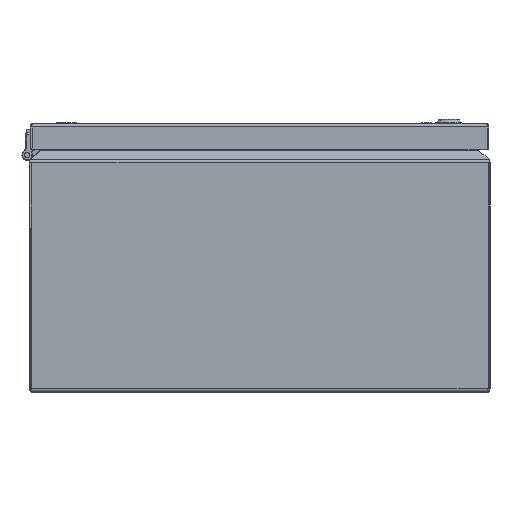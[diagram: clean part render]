
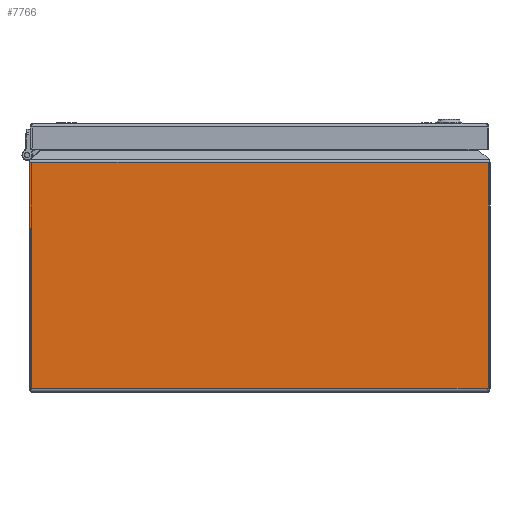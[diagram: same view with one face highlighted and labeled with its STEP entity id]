
A CAD part, front view. The second image highlights one B-rep face of the part: STEP entity #7766.
In plain terms, the highlighted planar face has unit normal (0, -1, 0).
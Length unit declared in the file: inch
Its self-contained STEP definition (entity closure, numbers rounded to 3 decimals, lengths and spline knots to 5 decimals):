
#692=DIRECTION('',(1.,0.,0.));
#693=VECTOR('',#692,13.94283);
#694=CARTESIAN_POINT('',(-6.97141,-8.,0.12));
#695=LINE('',#694,#693);
#713=DIRECTION('',(0.001,0.,1.));
#714=VECTOR('',#713,6.87305);
#715=CARTESIAN_POINT('',(6.97141,-8.,0.12));
#716=LINE('',#715,#714);
#720=DIRECTION('',(-0.001,0.,1.));
#721=VECTOR('',#720,6.87305);
#722=CARTESIAN_POINT('',(-6.97141,-8.,0.12));
#723=LINE('',#722,#721);
#727=DIRECTION('',(1.,0.,0.));
#728=VECTOR('',#727,13.95933);
#729=CARTESIAN_POINT('',(-6.97966,-8.,6.99304));
#730=LINE('',#729,#728);
#6771=CARTESIAN_POINT('',(-6.97141,-8.,0.12));
#6772=CARTESIAN_POINT('',(-6.97966,-8.,6.99304));
#6773=VERTEX_POINT('',#6771);
#6774=VERTEX_POINT('',#6772);
#6947=CARTESIAN_POINT('',(6.97141,-8.,0.12));
#6948=CARTESIAN_POINT('',(6.97966,-8.,6.99304));
#6949=VERTEX_POINT('',#6947);
#6950=VERTEX_POINT('',#6948);
#7753=CARTESIAN_POINT('',(-7.,-8.,0.));
#7754=DIRECTION('',(0.,-1.,0.));
#7755=DIRECTION('',(1.,0.,0.));
#7756=AXIS2_PLACEMENT_3D('',#7753,#7754,#7755);
#7757=PLANE('',#7756);
#7758=ORIENTED_EDGE('',*,*,#7743,.F.);
#7759=ORIENTED_EDGE('',*,*,#7719,.F.);
#7761=ORIENTED_EDGE('',*,*,#7760,.T.);
#7763=ORIENTED_EDGE('',*,*,#7762,.T.);
#7764=EDGE_LOOP('',(#7758,#7759,#7761,#7763));
#7765=FACE_OUTER_BOUND('',#7764,.F.);
#7719=EDGE_CURVE('',#6773,#6949,#695,.T.);
#7743=EDGE_CURVE('',#6949,#6950,#716,.T.);
#7760=EDGE_CURVE('',#6773,#6774,#723,.T.);
#7762=EDGE_CURVE('',#6774,#6950,#730,.T.);
#7766=ADVANCED_FACE('',(#7765),#7757,.T.);
